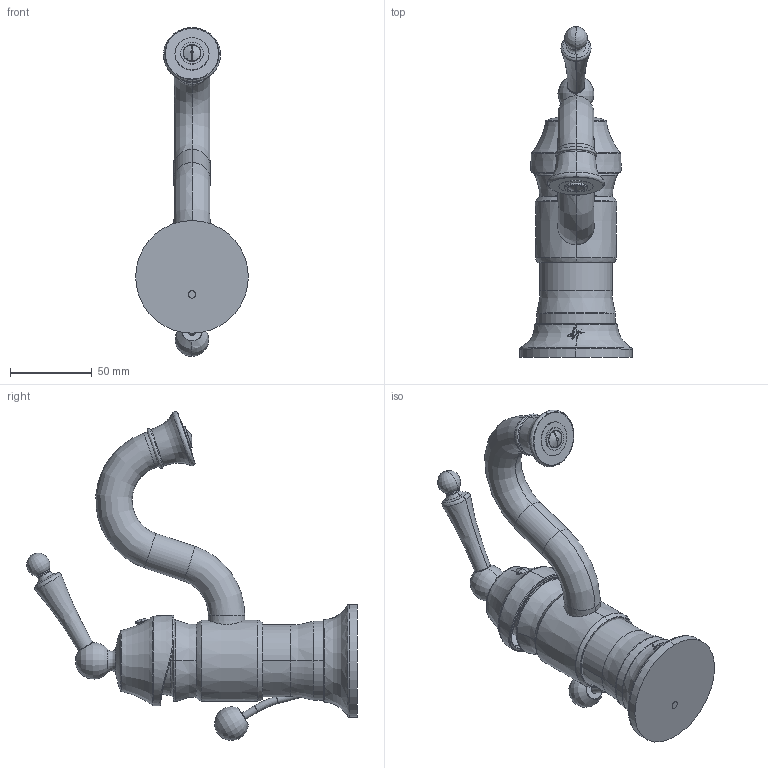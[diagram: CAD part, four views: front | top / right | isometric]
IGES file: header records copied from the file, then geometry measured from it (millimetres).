
Start section:  PTC IGES file: sku_s411.igs
Global section: file name: sku_s411.igs; native system: Pro/ENGINEER by Parametric Technology Corporation; preprocessor: 2006460; author: 9dutterb; organization: Unknown; date: 20071107.155149; units: inch
Bounding box: 68.83 x 202.06 x 201.02 mm (x, y, z)
Surface area: 62315.7 mm2 (no closed solid volume)
Topology: 0 solids, 0 shells, 297 faces, 1593 edges, 1581 vertices
Faces by surface type: revolution 198, bspline 96, extrusion 3
